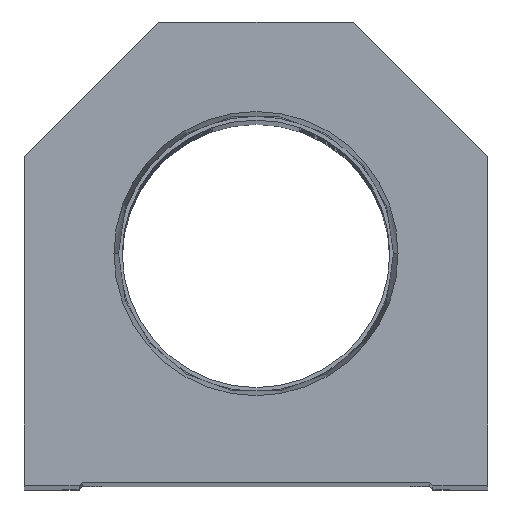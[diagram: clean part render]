
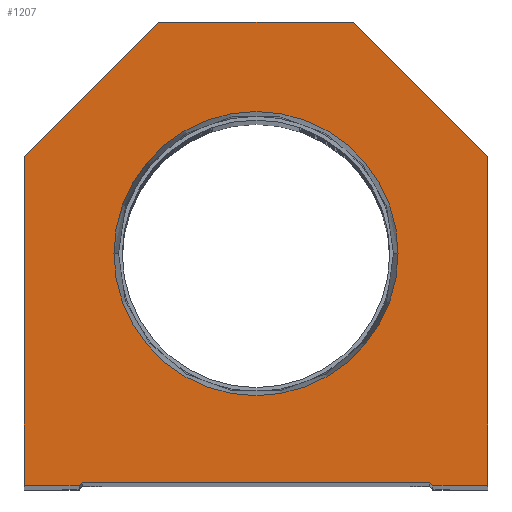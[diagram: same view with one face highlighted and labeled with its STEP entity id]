
A CAD part, top view. The second image highlights one B-rep face of the part: STEP entity #1207.
In plain terms, the highlighted planar face has unit normal (0, 0, 1).
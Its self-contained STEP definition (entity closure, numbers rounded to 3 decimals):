
#459 = EDGE_CURVE ( 'NONE', #4144, #16495, #7947, .T. ) ;
#465 = VERTEX_POINT ( 'NONE', #11623 ) ;
#473 = VECTOR ( 'NONE', #12852, 1000. ) ;
#489 = LINE ( 'NONE', #6877, #3714 ) ;
#841 = VERTEX_POINT ( 'NONE', #3308 ) ;
#934 = CARTESIAN_POINT ( 'NONE',  ( -38.1, 0., 0. ) ) ;
#1032 = DIRECTION ( 'NONE',  ( 0., 0., 1. ) ) ;
#1139 = EDGE_CURVE ( 'NONE', #17239, #17916, #2493, .T. ) ;
#1207 = ADVANCED_FACE ( 'NONE', ( #20411, #5839 ), #10433, .T. ) ;
#1573 = CIRCLE ( 'NONE', #11940, 23.374 ) ;
#1629 = EDGE_CURVE ( 'NONE', #19968, #6103, #16424, .T. ) ;
#1859 = LINE ( 'NONE', #8240, #14927 ) ;
#2104 = EDGE_CURVE ( 'NONE', #19064, #11442, #19112, .T. ) ;
#2164 = ORIENTED_EDGE ( 'NONE', *, *, #18063, .T. ) ;
#2286 = ORIENTED_EDGE ( 'NONE', *, *, #18857, .T. ) ;
#2456 = EDGE_CURVE ( 'NONE', #11442, #9210, #4932, .T. ) ;
#2493 = LINE ( 'NONE', #934, #12777 ) ;
#2731 = LINE ( 'NONE', #16820, #6928 ) ;
#3285 = CARTESIAN_POINT ( 'NONE',  ( -14.55, 14.55, 0. ) ) ;
#3308 = CARTESIAN_POINT ( 'NONE',  ( 23.374, 38.1, 0. ) ) ;
#3514 = DIRECTION ( 'NONE',  ( 1., 0., 0. ) ) ;
#3622 = ORIENTED_EDGE ( 'NONE', *, *, #2456, .T. ) ;
#3714 = VECTOR ( 'NONE', #13248, 1000. ) ;
#3802 = CARTESIAN_POINT ( 'NONE',  ( -38.1, 54.1, 0. ) ) ;
#4144 = VERTEX_POINT ( 'NONE', #14073 ) ;
#4932 = LINE ( 'NONE', #16049, #7826 ) ;
#5132 = ORIENTED_EDGE ( 'NONE', *, *, #9141, .T. ) ;
#5232 = CARTESIAN_POINT ( 'NONE',  ( 38.1, 54.1, 0. ) ) ;
#5276 = LINE ( 'NONE', #8913, #19573 ) ;
#5361 = CARTESIAN_POINT ( 'NONE',  ( -28.6, 0.5, 0. ) ) ;
#5721 = ORIENTED_EDGE ( 'NONE', *, *, #8844, .F. ) ;
#5839 = FACE_OUTER_BOUND ( 'NONE', #12812, .T. ) ;
#6103 = VERTEX_POINT ( 'NONE', #15697 ) ;
#6268 = CIRCLE ( 'NONE', #12945, 23.374 ) ;
#6811 = CARTESIAN_POINT ( 'NONE',  ( -38.1, 0., 0. ) ) ;
#6841 = CARTESIAN_POINT ( 'NONE',  ( 29.1, 0., 0. ) ) ;
#6877 = CARTESIAN_POINT ( 'NONE',  ( -38.1, 54.1, 0. ) ) ;
#6928 = VECTOR ( 'NONE', #12249, 1000. ) ;
#7252 = CARTESIAN_POINT ( 'NONE',  ( 28.6, 0.5, 0. ) ) ;
#7406 = DIRECTION ( 'NONE',  ( 1., 0., 0. ) ) ;
#7826 = VECTOR ( 'NONE', #14310, 1000. ) ;
#7947 = LINE ( 'NONE', #5232, #473 ) ;
#8121 = AXIS2_PLACEMENT_3D ( 'NONE', #12115, #1032, #7406 ) ;
#8137 = DIRECTION ( 'NONE',  ( -1., 0., 0. ) ) ;
#8240 = CARTESIAN_POINT ( 'NONE',  ( 38.1, 0., 0. ) ) ;
#8314 = ORIENTED_EDGE ( 'NONE', *, *, #2104, .T. ) ;
#8615 = ORIENTED_EDGE ( 'NONE', *, *, #1629, .T. ) ;
#8844 = EDGE_CURVE ( 'NONE', #465, #841, #1573, .T. ) ;
#8904 = DIRECTION ( 'NONE',  ( 0., 0., 1. ) ) ;
#8913 = CARTESIAN_POINT ( 'NONE',  ( -28.6, 0., 0. ) ) ;
#9141 = EDGE_CURVE ( 'NONE', #17916, #19064, #5276, .T. ) ;
#9210 = VERTEX_POINT ( 'NONE', #7252 ) ;
#9477 = CARTESIAN_POINT ( 'NONE',  ( -29.1, 0., 0. ) ) ;
#9614 = ORIENTED_EDGE ( 'NONE', *, *, #9728, .F. ) ;
#9728 = EDGE_CURVE ( 'NONE', #841, #465, #6268, .T. ) ;
#10194 = ORIENTED_EDGE ( 'NONE', *, *, #1139, .T. ) ;
#10433 = PLANE ( 'NONE',  #8121 ) ;
#10489 = VECTOR ( 'NONE', #17561, 1000. ) ;
#10680 = CARTESIAN_POINT ( 'NONE',  ( 0., 38.1, 0. ) ) ;
#11302 = LINE ( 'NONE', #13050, #15855 ) ;
#11442 = VERTEX_POINT ( 'NONE', #5361 ) ;
#11500 = CARTESIAN_POINT ( 'NONE',  ( 16., 76.2, 0. ) ) ;
#11623 = CARTESIAN_POINT ( 'NONE',  ( -23.374, 38.1, 0. ) ) ;
#11940 = AXIS2_PLACEMENT_3D ( 'NONE', #10680, #8904, #12356 ) ;
#12115 = CARTESIAN_POINT ( 'NONE',  ( 0., 0., 0. ) ) ;
#12249 = DIRECTION ( 'NONE',  ( 0.707, -0.707, 0. ) ) ;
#12356 = DIRECTION ( 'NONE',  ( 1., 0., 0. ) ) ;
#12558 = EDGE_CURVE ( 'NONE', #20550, #17239, #489, .T. ) ;
#12643 = CARTESIAN_POINT ( 'NONE',  ( -16., 76.2, 0. ) ) ;
#12777 = VECTOR ( 'NONE', #18575, 1000. ) ;
#12812 = EDGE_LOOP ( 'NONE', ( #5132, #8314, #3622, #2164, #8615, #18236, #13858, #2286, #17198, #10194 ) ) ;
#12852 = DIRECTION ( 'NONE',  ( -0.707, 0.707, 0. ) ) ;
#12945 = AXIS2_PLACEMENT_3D ( 'NONE', #17536, #19196, #18993 ) ;
#13050 = CARTESIAN_POINT ( 'NONE',  ( 16., 76.2, 0. ) ) ;
#13248 = DIRECTION ( 'NONE',  ( -0.707, -0.707, 0. ) ) ;
#13858 = ORIENTED_EDGE ( 'NONE', *, *, #459, .T. ) ;
#14073 = CARTESIAN_POINT ( 'NONE',  ( 38.1, 54.1, 0. ) ) ;
#14120 = VECTOR ( 'NONE', #3514, 1000. ) ;
#14310 = DIRECTION ( 'NONE',  ( 1., 0., 0. ) ) ;
#14594 = DIRECTION ( 'NONE',  ( 0., 1., 0. ) ) ;
#14927 = VECTOR ( 'NONE', #14594, 1000. ) ;
#15256 = DIRECTION ( 'NONE',  ( 1., 0., 0. ) ) ;
#15697 = CARTESIAN_POINT ( 'NONE',  ( 38.1, 0., 0. ) ) ;
#15855 = VECTOR ( 'NONE', #8137, 1000. ) ;
#16049 = CARTESIAN_POINT ( 'NONE',  ( -28.6, 0.5, 0. ) ) ;
#16424 = LINE ( 'NONE', #17785, #14120 ) ;
#16495 = VERTEX_POINT ( 'NONE', #11500 ) ;
#16820 = CARTESIAN_POINT ( 'NONE',  ( 14.55, 14.55, 0. ) ) ;
#17198 = ORIENTED_EDGE ( 'NONE', *, *, #12558, .T. ) ;
#17239 = VERTEX_POINT ( 'NONE', #3802 ) ;
#17536 = CARTESIAN_POINT ( 'NONE',  ( 0., 38.1, 0. ) ) ;
#17561 = DIRECTION ( 'NONE',  ( 0.707, 0.707, 0. ) ) ;
#17785 = CARTESIAN_POINT ( 'NONE',  ( 28.6, 0., 0. ) ) ;
#17916 = VERTEX_POINT ( 'NONE', #6811 ) ;
#18063 = EDGE_CURVE ( 'NONE', #9210, #19968, #2731, .T. ) ;
#18236 = ORIENTED_EDGE ( 'NONE', *, *, #20610, .T. ) ;
#18575 = DIRECTION ( 'NONE',  ( 0., -1., 0. ) ) ;
#18857 = EDGE_CURVE ( 'NONE', #16495, #20550, #11302, .T. ) ;
#18993 = DIRECTION ( 'NONE',  ( 1., 0., 0. ) ) ;
#19064 = VERTEX_POINT ( 'NONE', #9477 ) ;
#19112 = LINE ( 'NONE', #3285, #10489 ) ;
#19196 = DIRECTION ( 'NONE',  ( 0., 0., 1. ) ) ;
#19573 = VECTOR ( 'NONE', #15256, 1000. ) ;
#19968 = VERTEX_POINT ( 'NONE', #6841 ) ;
#20300 = EDGE_LOOP ( 'NONE', ( #9614, #5721 ) ) ;
#20411 = FACE_BOUND ( 'NONE', #20300, .T. ) ;
#20550 = VERTEX_POINT ( 'NONE', #12643 ) ;
#20610 = EDGE_CURVE ( 'NONE', #6103, #4144, #1859, .T. ) ;
